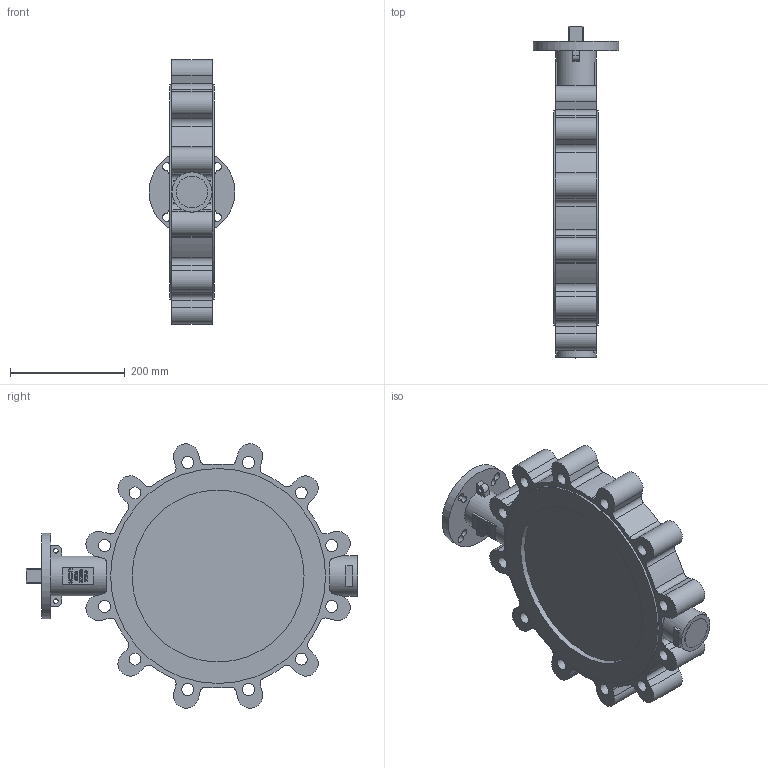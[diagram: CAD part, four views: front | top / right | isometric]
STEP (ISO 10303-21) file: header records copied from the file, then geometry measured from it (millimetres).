
FILE_DESCRIPTION(/* description */ (''),/* implementation_level */ '2;1');
FILE_NAME(/* name */ '6820-DN300-PN16-EPDM - 13548566.stp',/* time_stamp */ '2024-09-06T09:47:06+02:00',/* author */ ('roger.thijssen'),/* organization */ (''),/* preprocessor_version */ 'ST-DEVELOPER v20',/* originating_system */ 'Autodesk Inventor 2024',/* authorisation */ '');
FILE_SCHEMA (('AUTOMOTIVE_DESIGN { 1 0 10303 214 3 1 1 }'));
Length unit declared in the file: millimetre
Products named in the file (1): 6820-DN300-PN16
Bounding box: 150 x 579 x 461.08 mm (x, y, z)
Volume: 9852515.5 mm3; surface area: 566619.1 mm2
Topology: 1 solids, 1 shells, 528 faces, 1433 edges, 949 vertices
Faces by surface type: plane 256, bspline 146, cylinder 121, cone 5
Full cylindrical faces by diameter (mm): 6.647 x1, 8 x2, 20.752 x12, 55 x1, 70 x2, 150 x1, 300 x2, 375 x2
Entity records: 18651 total; most frequent: CARTESIAN_POINT 5468, ORIENTED_EDGE 2864, DIRECTION 2138, EDGE_CURVE 1432, VERTEX_POINT 949, LINE 852, VECTOR 852, AXIS2_PLACEMENT_3D 643
